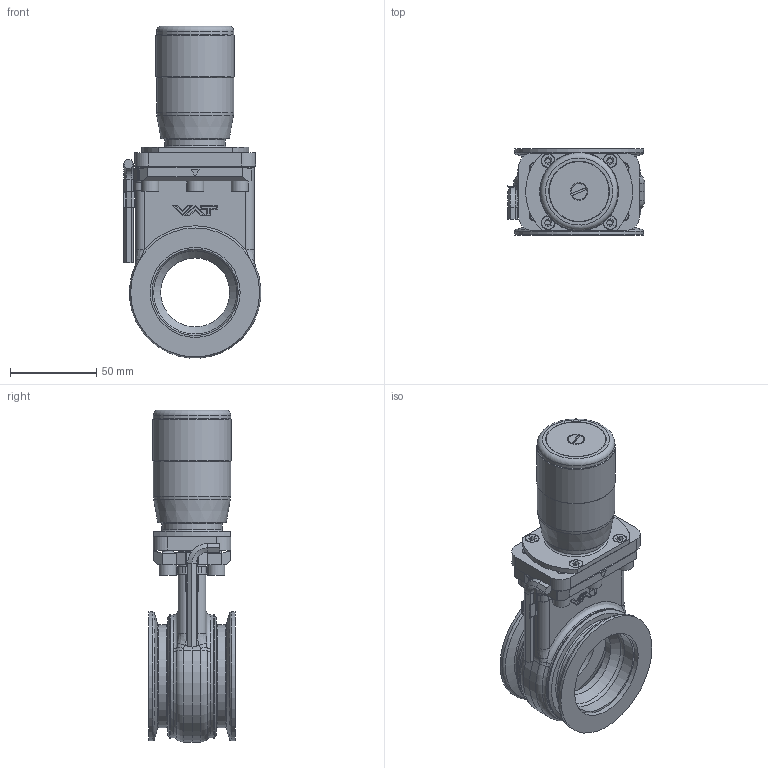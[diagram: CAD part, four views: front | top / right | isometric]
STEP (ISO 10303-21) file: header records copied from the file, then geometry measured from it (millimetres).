
FILE_DESCRIPTION(/* description */ (''),/* implementation_level */ '2;1');
FILE_NAME(/* name */ '1720590755_203.stp',/* time_stamp */ '2019-02-22T15:57:40+01:00',/* author */ (''),/* organization */ (''),/* preprocessor_version */ 'ST-DEVELOPER v16',/* originating_system */ 'SIEMENS PLM Software NX 11.0',/* authorisation */ '');
FILE_SCHEMA (('AP203_CONFIGURATION_CONTROLLED_3D_DESIGN_OF_MECHANICAL_PARTS_AND_ASSEMBLIES_MIM_LF { 1 0 10303 403 2 1 2}'));
Length unit declared in the file: millimetre
Products named in the file (21): 63150-01_29342ID; 63150-01_29344ID; 63152-01.4_29661ID; 69852-01; 63172-01; 83436-01.1; n-6013-444.1; n-6011-473.1; 63194-01.2; 66230-01.2; 66228-01.3; 69968-01.1; 73280-01_1.1; 228772.1; 318865; 63170-r1; 779763_NX-ARRAGMNTMassbild; 777465_NX-ARRAGMNTMassbild; 777439_NX-ARRAGMNTMassbild; 777438_NX-ARRAGMNTMassbild; 375548.1
Assembly tree (29 placements, depth 5):
  375548.1
    777438_NX-ARRAGMNTMassbild
      777439_NX-ARRAGMNTMassbild
        777465_NX-ARRAGMNTMassbild
          63152-01.4_29661ID
      66228-01.3
      66230-01.2
      63194-01.2
      n-6011-473.1
      n-6013-444.1  x4
    228772.1  x6
    73280-01_1.1
    69968-01.1
    779763_NX-ARRAGMNTMassbild
      83436-01.1  x2
      63172-01
      63170-r1
        318865
          63150-01_29344ID
          63150-01_29342ID
      69852-01
Bounding box: 79.97 x 50 x 192.96 mm (x, y, z)
Volume: 184089.1 mm3; surface area: 121496.6 mm2
Topology: 37 solids, 37 shells, 685 faces, 1638 edges, 1052 vertices
Faces by surface type: plane 380, cylinder 173, bspline 57, cone 42, torus 33
Full cylindrical faces by diameter (mm): 3.3 x4, 3.4 x2, 4 x4, 4.16 x1, 4.2 x1, 4.25 x4, 4.96 x6, 5 x7, 5.25 x1, 6 x18, 6.2 x6, 7.5 x4, 10 x6, 10.008 x1, 20.75 x1, 24.7 x2, 33.075 x1, 34.75 x1, 35.1 x1, 35.25 x2, 39.1 x1, 40.1 x2, 45 x2, 45.8 x1, 50.1 x2, 52.3 x2, 59.8 x2, 66.65 x2, 67.9 x2, 68.1 x2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
Entity records: 25854 total; most frequent: CARTESIAN_POINT 9920, DIRECTION 2361, ORIENTED_EDGE 2360, EDGE_CURVE 1180, AXIS2_PLACEMENT_3D 840, VERTEX_POINT 819, EDGE_LOOP 692, LINE 681
